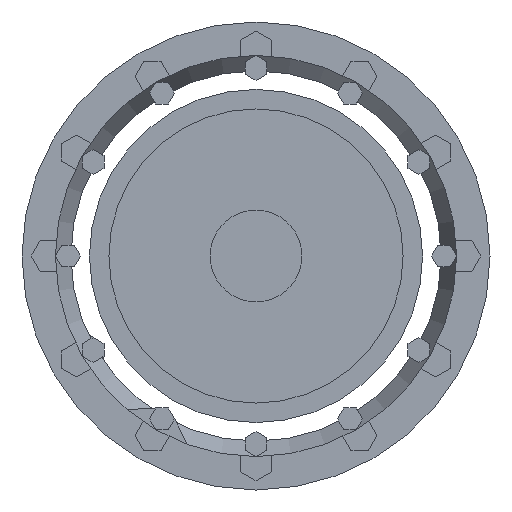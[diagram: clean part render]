
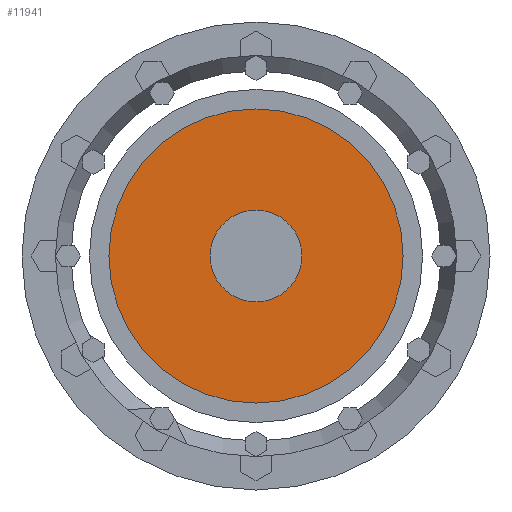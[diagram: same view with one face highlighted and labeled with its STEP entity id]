
A CAD part, left-side view. The second image highlights one B-rep face of the part: STEP entity #11941.
In plain terms, the highlighted planar face has unit normal (-1, 0, 0) as drawn and (1, 0, 0) by its records, which use the part's own axes.
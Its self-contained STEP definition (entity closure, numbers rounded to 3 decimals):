
#11765=CARTESIAN_POINT('',(-4.,0.,0.));
#11766=DIRECTION('',(1.,0.,0.));
#11767=DIRECTION('',(0.,1.,0.));
#11768=AXIS2_PLACEMENT_3D('',#11765,#11766,#11767);
#11775=CARTESIAN_POINT('',(-4.,0.,0.));
#11776=DIRECTION('',(-1.,0.,0.));
#11777=DIRECTION('',(0.,1.,0.));
#11778=AXIS2_PLACEMENT_3D('',#11775,#11776,#11777);
#11780=CARTESIAN_POINT('',(-4.,0.,0.));
#11781=DIRECTION('',(1.,0.,0.));
#11782=DIRECTION('',(0.,1.,0.));
#11783=AXIS2_PLACEMENT_3D('',#11780,#11781,#11782);
#11859=CARTESIAN_POINT('',(-4.,0.,0.));
#11860=DIRECTION('',(1.,0.,0.));
#11861=DIRECTION('',(0.,-1.,0.));
#11862=AXIS2_PLACEMENT_3D('',#11859,#11860,#11861);
#11886=CARTESIAN_POINT('',(-4.,88.,0.));
#11888=VERTEX_POINT('',#11886);
#11890=CARTESIAN_POINT('',(-4.,-88.,0.));
#11892=VERTEX_POINT('',#11890);
#11897=CARTESIAN_POINT('',(-4.,27.5,0.));
#11898=CARTESIAN_POINT('',(-4.,-27.5,0.));
#11899=VERTEX_POINT('',#11897);
#11900=VERTEX_POINT('',#11898);
#11925=CARTESIAN_POINT('',(-4.,0.,0.));
#11926=DIRECTION('',(1.,0.,0.));
#11927=DIRECTION('',(0.,-1.,0.));
#11928=AXIS2_PLACEMENT_3D('',#11925,#11926,#11927);
#11929=PLANE('',#11928);
#11931=ORIENTED_EDGE('',*,*,#11930,.T.);
#11933=ORIENTED_EDGE('',*,*,#11932,.F.);
#11934=EDGE_LOOP('',(#11931,#11933));
#11935=FACE_OUTER_BOUND('',#11934,.F.);
#11936=ORIENTED_EDGE('',*,*,#11914,.T.);
#11938=ORIENTED_EDGE('',*,*,#11937,.T.);
#11939=EDGE_LOOP('',(#11936,#11938));
#11940=FACE_BOUND('',#11939,.F.);
#11941=ADVANCED_FACE('',(#11935,#11940),#11929,.T.);
#11769=CIRCLE('',#11768,27.5);
#11779=CIRCLE('',#11778,88.);
#11784=CIRCLE('',#11783,88.);
#11863=CIRCLE('',#11862,27.5);
#11914=EDGE_CURVE('',#11899,#11900,#11769,.T.);
#11930=EDGE_CURVE('',#11888,#11892,#11779,.T.);
#11932=EDGE_CURVE('',#11888,#11892,#11784,.T.);
#11937=EDGE_CURVE('',#11900,#11899,#11863,.T.);
